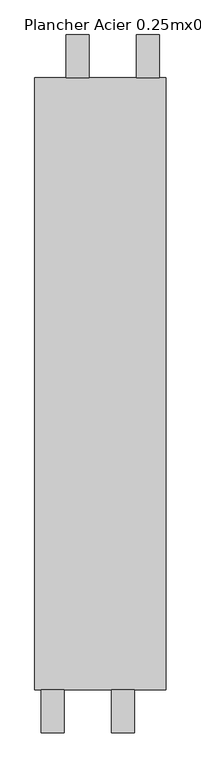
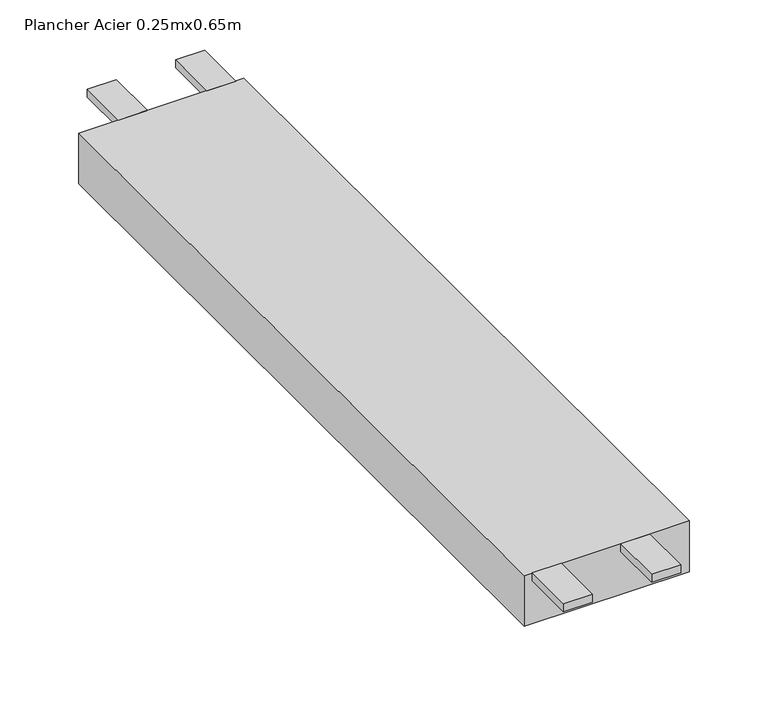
"""IFC4 building model written with IfcOpenShell, lengths in millimetres: proxy geometry, MILLS_TOEC_PANACIER_S : Plancher Acier 0.25mx0.65m."""

from ifc_helpers import new_model, si_unit, frame, origin, place, context, project, spatial, polyline, outline, extrude, source, transform, mapped, element, save


def plancher_acier_0_25mx0_65m_c3080953(model_context):
    return source(origin(), model_context, "Body", "SweptSolid", [
        extrude(outline(polyline([(-678.0, -32.0), (-713.0, -32.0), (-713.0, 33.0), (-678.0, 33.0), (-678.0, -32.0)])), frame((0.0, 0.0, 25.0), z_axis=(0.0, 0.0, 1.0), x_axis=(1.0, 0.0, 0.0)), (0.0, 0.0, 1.0), 10.0),
        extrude(outline(polyline([(-785.0, -32.0), (-820.0, -32.0), (-820.0, 33.0), (-785.0, 33.0), (-785.0, -32.0)])), frame((0.0, 0.0, 25.0), z_axis=(0.0, 0.0, 1.0), x_axis=(1.0, 0.0, 0.0)), (0.0, 0.0, 1.0), 10.0),
        extrude(outline(polyline([(-782.0, 1032.0), (-747.0, 1032.0), (-747.0, 967.0), (-782.0, 967.0), (-782.0, 1032.0)])), frame((0.0, 0.0, 25.0), z_axis=(0.0, 0.0, 1.0), x_axis=(1.0, 0.0, 0.0)), (0.0, 0.0, 1.0), 10.0),
        extrude(outline(polyline([(-675.0, 1032.0), (-640.0, 1032.0), (-640.0, 967.0), (-675.0, 967.0), (-675.0, 1032.0)])), frame((0.0, 0.0, 25.0), z_axis=(0.0, 0.0, 1.0), x_axis=(1.0, 0.0, 0.0)), (0.0, 0.0, 1.0), 10.0),
        extrude(outline(polyline([(-630.0, 967.0), (-630.0, 33.0), (-830.0, 33.0), (-830.0, 967.0), (-630.0, 967.0)])), frame((0.0, 0.0, -30.0), z_axis=(0.0, 0.0, 1.0), x_axis=(1.0, 0.0, 0.0)), (0.0, 0.0, 1.0), 65.0),
    ])


if __name__ == "__main__":
    model = new_model("IFC4")
    model_context = context("Model", 3, world=origin())
    ifc_project = project(units=[si_unit("LENGTHUNIT", "METRE", prefix="MILLI")], contexts=[model_context])
    site = spatial("IfcSite", under=ifc_project)
    building = spatial("IfcBuilding", under=site)
    placement = place(None, origin())
    plancher_acier_0_25mx0_65m_shape = plancher_acier_0_25mx0_65m_c3080953(model_context)
    element("IfcBuildingElementProxy", 1, Name="MILLS_TOEC_PANACIER_S : Plancher Acier 0.25mx0.65m", ObjectType="MILLS_TOEC_PANACIER_S : Plancher Acier 0.25mx0.65m", at=placement, inside=building, context=model_context, shape_type="MappedRepresentation", body=[
        mapped(plancher_acier_0_25mx0_65m_shape, transform((0.0, 0.0, 0.0), x_axis=(1.0, 0.0, 0.0), y_axis=(0.0, 1.0, 0.0), z_axis=(0.0, 0.0, 1.0))),
    ])
    save(model, "model.ifc")
